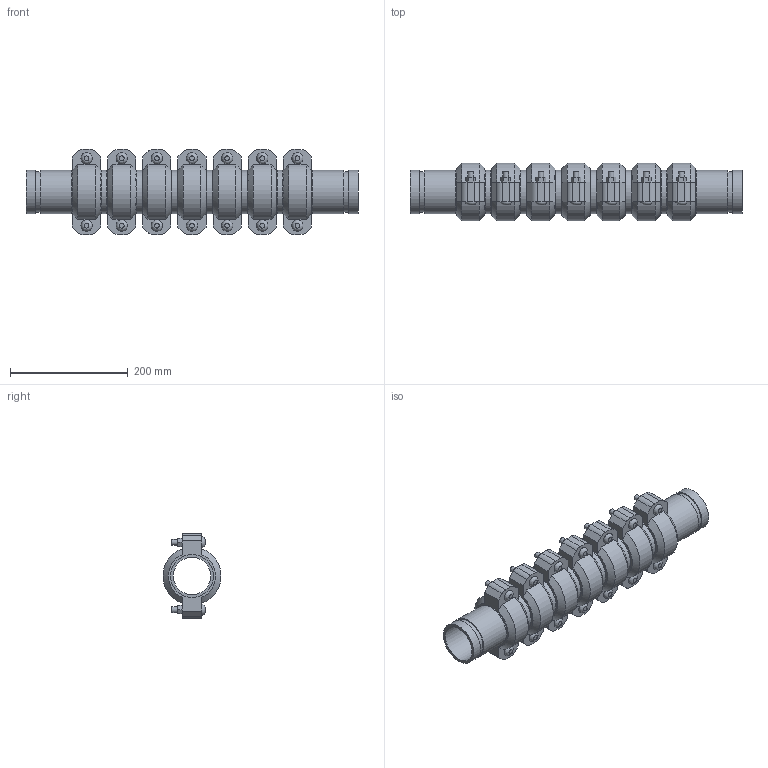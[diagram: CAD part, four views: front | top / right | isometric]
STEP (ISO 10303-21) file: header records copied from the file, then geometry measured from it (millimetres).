
FILE_DESCRIPTION(/* description */ ('VIC SS EXPANSION JOINT 7 COUPLINGS NEUTRAL STYLE 155P (OGS) (POTABLE WATER) ','CAx-IF Rec.Pracs.---Representation and Presentation of Product Manufacturing Information (PMI)---4.0---2014-10-13'),/* implementation_level */ '2;1');
FILE_NAME(/* name */ 'C:\Users\kkamble\AppData\Roaming\Autodesk\ApplicationPlugins\Victaulic.Temp\A807\Victaulic_SS_Expansion Joint_Neutral_7 Couplings_Style 155P (OGS)-Potable Water_7 Coup_Neut_2.5 (65).stp',/* time_stamp */ '2021-07-16T16:37:14+05:00',/* author */ ('kkamble'),/* organization */ ('Victaulic'),/* preprocessor_version */ 'ST-DEVELOPER v17.2',/* originating_system */ 'Autodesk Inventor 2019',/* authorisation */ '');
FILE_SCHEMA (('AP242_MANAGED_MODEL_BASED_3D_ENGINEERING_MIM_LF { 1 0 10303 442 1 1 4 }'));
Length unit declared in the file: inch
Products named in the file (4): 155P-02.5; Nipple-02.5; Nipple-02.5_1; 075-02.5
Assembly tree (15 placements, depth 2):
  155P-02.5
    Nipple-02.5  x2
    Nipple-02.5_1  x6
    075-02.5  x7
Bounding box: 562.86 x 98.22 x 144.27 mm (x, y, z)
Volume: 2012482.4 mm3; surface area: 571242.7 mm2
Topology: 15 solids, 29 shells, 495 faces, 1171 edges, 822 vertices
Faces by surface type: plane 300, cylinder 153, cone 28, bspline 14
Full cylindrical faces by diameter (mm): 9.525 x28, 11.43 x14, 63.475 x8, 66.675 x7, 69.088 x16, 73.025 x38
Entity records: 2833 total; most frequent: CARTESIAN_POINT 499, DIRECTION 473, ORIENTED_EDGE 386, EDGE_CURVE 193, AXIS2_PLACEMENT_3D 190, VERTEX_POINT 138, EDGE_LOOP 107, LINE 93
